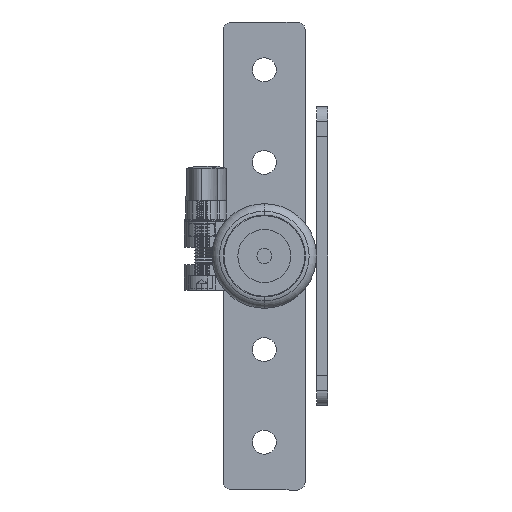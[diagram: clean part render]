
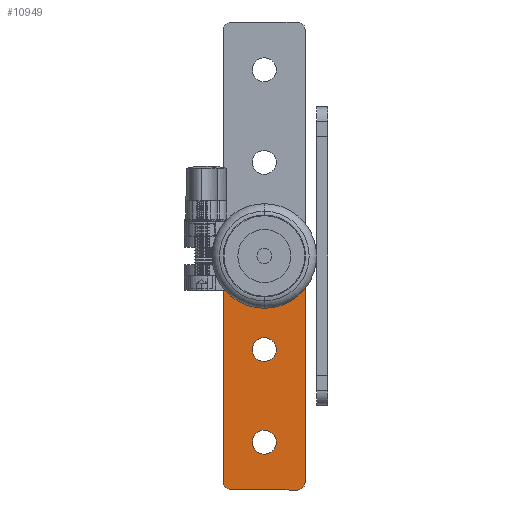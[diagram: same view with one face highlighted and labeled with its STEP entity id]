
A CAD part, front view. The second image highlights one B-rep face of the part: STEP entity #10949.
In plain terms, the highlighted planar face has unit normal (0, -1, 0).
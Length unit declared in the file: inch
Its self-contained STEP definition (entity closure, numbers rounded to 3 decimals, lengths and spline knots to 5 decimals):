
#107 = DIRECTION ( 'NONE',  ( 0., -1., 0. ) ) ;
#203 = VECTOR ( 'NONE', #3204, 39.37008 ) ;
#546 = VERTEX_POINT ( 'NONE', #10756 ) ;
#736 = VERTEX_POINT ( 'NONE', #2520 ) ;
#828 = CARTESIAN_POINT ( 'NONE',  ( 3.78228, 1.555, -0.6825 ) ) ;
#1194 = AXIS2_PLACEMENT_3D ( 'NONE', #15160, #6504, #16613 ) ;
#1277 = VERTEX_POINT ( 'NONE', #9119 ) ;
#1905 = DIRECTION ( 'NONE',  ( 0., 1., 0. ) ) ;
#2142 = VERTEX_POINT ( 'NONE', #17584 ) ;
#2362 = CARTESIAN_POINT ( 'NONE',  ( 0., 1.555, 0. ) ) ;
#2520 = CARTESIAN_POINT ( 'NONE',  ( 3.116, 1.555, -0.2 ) ) ;
#2630 = ORIENTED_EDGE ( 'NONE', *, *, #17257, .T. ) ;
#2632 = LINE ( 'NONE', #7003, #6475 ) ;
#2807 = CIRCLE ( 'NONE', #9718, 0.2 ) ;
#3204 = DIRECTION ( 'NONE',  ( 1., 0., 0. ) ) ;
#3404 = EDGE_LOOP ( 'NONE', ( #13766, #7948, #15722, #6178, #15517, #12803 ) ) ;
#3693 = EDGE_LOOP ( 'NONE', ( #4261, #2630 ) ) ;
#3819 = DIRECTION ( 'NONE',  ( 0., 0., 1. ) ) ;
#4261 = ORIENTED_EDGE ( 'NONE', *, *, #9081, .T. ) ;
#4323 = EDGE_CURVE ( 'NONE', #1277, #2142, #12328, .T. ) ;
#4362 = AXIS2_PLACEMENT_3D ( 'NONE', #2362, #12482, #3819 ) ;
#5102 = VERTEX_POINT ( 'NONE', #10351 ) ;
#5244 = AXIS2_PLACEMENT_3D ( 'NONE', #15007, #6354, #16467 ) ;
#5454 = CARTESIAN_POINT ( 'NONE',  ( 1.566, 1.555, 0. ) ) ;
#5583 = CARTESIAN_POINT ( 'NONE',  ( 3.78228, 1.555, -0.54878 ) ) ;
#5628 = CIRCLE ( 'NONE', #5663, 0.2 ) ;
#5663 = AXIS2_PLACEMENT_3D ( 'NONE', #5454, #15553, #6910 ) ;
#5713 = CIRCLE ( 'NONE', #5244, 0.2 ) ;
#5807 = EDGE_CURVE ( 'NONE', #736, #17679, #5713, .T. ) ;
#5871 = LINE ( 'NONE', #9947, #17402 ) ;
#5878 = CARTESIAN_POINT ( 'NONE',  ( 0.48539, 1.555, -0.6825 ) ) ;
#6056 = CARTESIAN_POINT ( 'NONE',  ( -3.78228, 1.555, 0.6825 ) ) ;
#6178 = ORIENTED_EDGE ( 'NONE', *, *, #12318, .F. ) ;
#6354 = DIRECTION ( 'NONE',  ( 0., 1., 0. ) ) ;
#6475 = VECTOR ( 'NONE', #15633, 39.37008 ) ;
#6504 = DIRECTION ( 'NONE',  ( 0., 1., 0. ) ) ;
#6910 = DIRECTION ( 'NONE',  ( 0., 0., -1. ) ) ;
#7003 = CARTESIAN_POINT ( 'NONE',  ( -3.78228, 1.555, -0.6825 ) ) ;
#7234 = CARTESIAN_POINT ( 'NONE',  ( 3.916, 1.555, -0.54878 ) ) ;
#7373 = VERTEX_POINT ( 'NONE', #5878 ) ;
#7627 = CIRCLE ( 'NONE', #4362, 0.8375 ) ;
#7683 = CARTESIAN_POINT ( 'NONE',  ( 3.78228, 1.555, 0.54878 ) ) ;
#7948 = ORIENTED_EDGE ( 'NONE', *, *, #15278, .T. ) ;
#7950 = EDGE_CURVE ( 'NONE', #546, #1277, #8377, .T. ) ;
#8317 = DIRECTION ( 'NONE',  ( 0., 1., 0. ) ) ;
#8377 = LINE ( 'NONE', #6056, #203 ) ;
#8799 = PLANE ( 'NONE',  #16039 ) ;
#8991 = CIRCLE ( 'NONE', #11957, 0.13372 ) ;
#9081 = EDGE_CURVE ( 'NONE', #5102, #17443, #5628, .T. ) ;
#9118 = DIRECTION ( 'NONE',  ( 0., 0., 1. ) ) ;
#9119 = CARTESIAN_POINT ( 'NONE',  ( 3.78228, 1.555, 0.6825 ) ) ;
#9718 = AXIS2_PLACEMENT_3D ( 'NONE', #10559, #1905, #12023 ) ;
#9947 = CARTESIAN_POINT ( 'NONE',  ( 3.916, 1.555, 0.54878 ) ) ;
#9951 = FACE_BOUND ( 'NONE', #3693, .T. ) ;
#10162 = CARTESIAN_POINT ( 'NONE',  ( 3.116, 1.555, 0.2 ) ) ;
#10254 = DIRECTION ( 'NONE',  ( 0., 0., -1. ) ) ;
#10315 = EDGE_CURVE ( 'NONE', #12251, #7373, #2632, .T. ) ;
#10351 = CARTESIAN_POINT ( 'NONE',  ( 1.566, 1.555, -0.2 ) ) ;
#10409 = FACE_OUTER_BOUND ( 'NONE', #3404, .T. ) ;
#10559 = CARTESIAN_POINT ( 'NONE',  ( 1.566, 1.555, 0. ) ) ;
#10756 = CARTESIAN_POINT ( 'NONE',  ( 0.48539, 1.555, 0.6825 ) ) ;
#10949 = ADVANCED_FACE ( 'NONE', ( #9951, #17657, #10409 ), #8799, .T. ) ;
#10980 = CIRCLE ( 'NONE', #1194, 0.2 ) ;
#11957 = AXIS2_PLACEMENT_3D ( 'NONE', #16972, #8317, #18434 ) ;
#12023 = DIRECTION ( 'NONE',  ( 0., 0., -1. ) ) ;
#12251 = VERTEX_POINT ( 'NONE', #828 ) ;
#12318 = EDGE_CURVE ( 'NONE', #18241, #12251, #8991, .T. ) ;
#12328 = CIRCLE ( 'NONE', #16490, 0.13372 ) ;
#12482 = DIRECTION ( 'NONE',  ( 0., 1., 0. ) ) ;
#12803 = ORIENTED_EDGE ( 'NONE', *, *, #4323, .F. ) ;
#13766 = ORIENTED_EDGE ( 'NONE', *, *, #7950, .F. ) ;
#13808 = EDGE_LOOP ( 'NONE', ( #13933, #15616 ) ) ;
#13933 = ORIENTED_EDGE ( 'NONE', *, *, #5807, .T. ) ;
#14318 = DIRECTION ( 'NONE',  ( 0., 0., -1. ) ) ;
#15007 = CARTESIAN_POINT ( 'NONE',  ( 3.116, 1.555, 0. ) ) ;
#15160 = CARTESIAN_POINT ( 'NONE',  ( 3.116, 1.555, 0. ) ) ;
#15278 = EDGE_CURVE ( 'NONE', #546, #7373, #7627, .T. ) ;
#15341 = CARTESIAN_POINT ( 'NONE',  ( 1.566, 1.555, 0.2 ) ) ;
#15517 = ORIENTED_EDGE ( 'NONE', *, *, #18171, .F. ) ;
#15553 = DIRECTION ( 'NONE',  ( 0., 1., 0. ) ) ;
#15616 = ORIENTED_EDGE ( 'NONE', *, *, #16328, .T. ) ;
#15633 = DIRECTION ( 'NONE',  ( -1., 0., 0. ) ) ;
#15722 = ORIENTED_EDGE ( 'NONE', *, *, #10315, .F. ) ;
#16039 = AXIS2_PLACEMENT_3D ( 'NONE', #5583, #107, #10254 ) ;
#16328 = EDGE_CURVE ( 'NONE', #17679, #736, #10980, .T. ) ;
#16467 = DIRECTION ( 'NONE',  ( 0., 0., -1. ) ) ;
#16490 = AXIS2_PLACEMENT_3D ( 'NONE', #7683, #17803, #9118 ) ;
#16613 = DIRECTION ( 'NONE',  ( 0., 0., -1. ) ) ;
#16972 = CARTESIAN_POINT ( 'NONE',  ( 3.78228, 1.555, -0.54878 ) ) ;
#17257 = EDGE_CURVE ( 'NONE', #17443, #5102, #2807, .T. ) ;
#17402 = VECTOR ( 'NONE', #14318, 39.37008 ) ;
#17443 = VERTEX_POINT ( 'NONE', #15341 ) ;
#17584 = CARTESIAN_POINT ( 'NONE',  ( 3.916, 1.555, 0.54878 ) ) ;
#17657 = FACE_BOUND ( 'NONE', #13808, .T. ) ;
#17679 = VERTEX_POINT ( 'NONE', #10162 ) ;
#17803 = DIRECTION ( 'NONE',  ( 0., 1., 0. ) ) ;
#18171 = EDGE_CURVE ( 'NONE', #2142, #18241, #5871, .T. ) ;
#18241 = VERTEX_POINT ( 'NONE', #7234 ) ;
#18434 = DIRECTION ( 'NONE',  ( 0., 0., -1. ) ) ;
